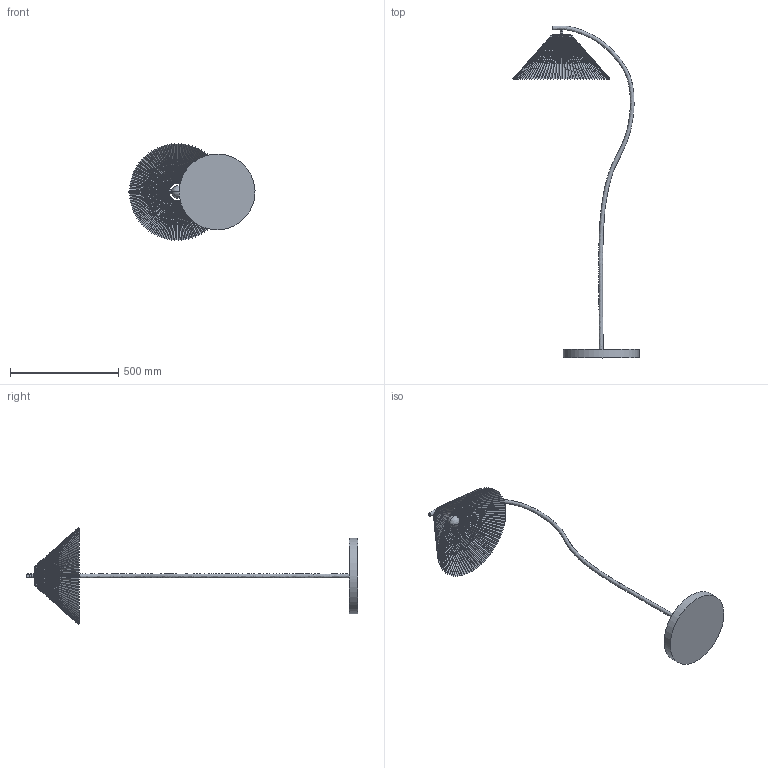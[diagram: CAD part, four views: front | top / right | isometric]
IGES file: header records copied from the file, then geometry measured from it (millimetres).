
Global section: file name: Caprani Tove Floor Lamp-3D; native system: AutoCAD 2022 - 简体中文 (Simplified Chinese),62HAuto; preprocessor: desk Translation Framework DWG producer (atf_dwg_producer); organization: unknown; date: 20240918.102131; units: millimetre
Bounding box: 581.46 x 1531.56 x 447.65 mm (x, y, z)
Volume: 4293980.2 mm3; surface area: 937620.5 mm2
Topology: 2 solids, 2 shells, 978 faces, 10982 edges, 10978 vertices
Faces by surface type: bspline 906, revolution 72
